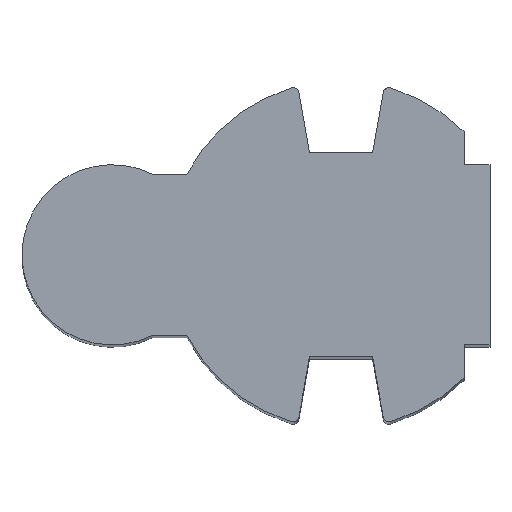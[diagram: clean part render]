
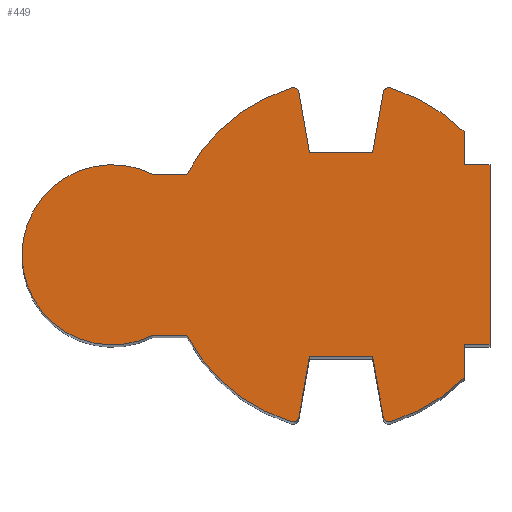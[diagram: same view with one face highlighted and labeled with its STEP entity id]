
A CAD part, top view. The second image highlights one B-rep face of the part: STEP entity #449.
In plain terms, the highlighted planar face has unit normal (0, 0, 1).
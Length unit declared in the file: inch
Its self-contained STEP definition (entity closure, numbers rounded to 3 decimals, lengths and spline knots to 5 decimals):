
#19=PLANE('',#492);
#36=FACE_OUTER_BOUND('',#60,.T.);
#60=EDGE_LOOP('',(#314,#315,#316,#317,#318,#319,#320,#321,#322,#323,#324,
#325,#326,#327,#328,#329,#330,#331,#332,#333,#334,#335));
#85=LINE('',#686,#133);
#86=LINE('',#688,#134);
#87=LINE('',#690,#135);
#88=LINE('',#696,#136);
#89=LINE('',#698,#137);
#90=LINE('',#700,#138);
#91=LINE('',#702,#139);
#92=LINE('',#704,#140);
#93=LINE('',#710,#141);
#94=LINE('',#712,#142);
#95=LINE('',#714,#143);
#96=LINE('',#720,#144);
#97=LINE('',#723,#145);
#133=VECTOR('',#550,0.3937);
#134=VECTOR('',#551,0.3937);
#135=VECTOR('',#552,0.3937);
#136=VECTOR('',#557,0.3937);
#137=VECTOR('',#558,0.3937);
#138=VECTOR('',#559,0.3937);
#139=VECTOR('',#560,0.3937);
#140=VECTOR('',#561,0.3937);
#141=VECTOR('',#566,0.3937);
#142=VECTOR('',#567,0.3937);
#143=VECTOR('',#568,0.3937);
#144=VECTOR('',#573,0.3937);
#145=VECTOR('',#576,0.3937);
#179=CIRCLE('',#488,0.025);
#180=CIRCLE('',#490,0.76);
#182=CIRCLE('',#493,0.025);
#183=CIRCLE('',#494,0.76);
#184=CIRCLE('',#495,0.76);
#185=CIRCLE('',#496,0.025);
#186=CIRCLE('',#497,0.025);
#187=CIRCLE('',#498,0.76);
#188=CIRCLE('',#499,0.3937);
#198=VERTEX_POINT('',#673);
#199=VERTEX_POINT('',#675);
#200=VERTEX_POINT('',#679);
#202=VERTEX_POINT('',#685);
#203=VERTEX_POINT('',#687);
#204=VERTEX_POINT('',#689);
#205=VERTEX_POINT('',#691);
#206=VERTEX_POINT('',#693);
#207=VERTEX_POINT('',#695);
#208=VERTEX_POINT('',#697);
#209=VERTEX_POINT('',#699);
#210=VERTEX_POINT('',#701);
#211=VERTEX_POINT('',#703);
#212=VERTEX_POINT('',#705);
#213=VERTEX_POINT('',#707);
#214=VERTEX_POINT('',#709);
#215=VERTEX_POINT('',#711);
#216=VERTEX_POINT('',#713);
#217=VERTEX_POINT('',#715);
#218=VERTEX_POINT('',#717);
#219=VERTEX_POINT('',#719);
#220=VERTEX_POINT('',#721);
#242=EDGE_CURVE('',#198,#199,#179,.T.);
#244=EDGE_CURVE('',#200,#199,#180,.T.);
#247=EDGE_CURVE('',#202,#198,#85,.T.);
#248=EDGE_CURVE('',#202,#203,#86,.T.);
#249=EDGE_CURVE('',#203,#204,#87,.T.);
#250=EDGE_CURVE('',#205,#204,#182,.T.);
#251=EDGE_CURVE('',#205,#206,#183,.T.);
#252=EDGE_CURVE('',#207,#206,#88,.T.);
#253=EDGE_CURVE('',#208,#207,#89,.T.);
#254=EDGE_CURVE('',#209,#208,#90,.T.);
#255=EDGE_CURVE('',#209,#210,#91,.T.);
#256=EDGE_CURVE('',#210,#211,#92,.T.);
#257=EDGE_CURVE('',#211,#212,#184,.T.);
#258=EDGE_CURVE('',#213,#212,#185,.T.);
#259=EDGE_CURVE('',#214,#213,#93,.T.);
#260=EDGE_CURVE('',#215,#214,#94,.T.);
#261=EDGE_CURVE('',#215,#216,#95,.T.);
#262=EDGE_CURVE('',#217,#216,#186,.T.);
#263=EDGE_CURVE('',#217,#218,#187,.T.);
#264=EDGE_CURVE('',#219,#218,#96,.T.);
#265=EDGE_CURVE('',#219,#220,#188,.T.);
#266=EDGE_CURVE('',#220,#200,#97,.T.);
#314=ORIENTED_EDGE('',*,*,#242,.F.);
#315=ORIENTED_EDGE('',*,*,#247,.F.);
#316=ORIENTED_EDGE('',*,*,#248,.T.);
#317=ORIENTED_EDGE('',*,*,#249,.T.);
#318=ORIENTED_EDGE('',*,*,#250,.F.);
#319=ORIENTED_EDGE('',*,*,#251,.T.);
#320=ORIENTED_EDGE('',*,*,#252,.F.);
#321=ORIENTED_EDGE('',*,*,#253,.F.);
#322=ORIENTED_EDGE('',*,*,#254,.F.);
#323=ORIENTED_EDGE('',*,*,#255,.T.);
#324=ORIENTED_EDGE('',*,*,#256,.T.);
#325=ORIENTED_EDGE('',*,*,#257,.T.);
#326=ORIENTED_EDGE('',*,*,#258,.F.);
#327=ORIENTED_EDGE('',*,*,#259,.F.);
#328=ORIENTED_EDGE('',*,*,#260,.F.);
#329=ORIENTED_EDGE('',*,*,#261,.T.);
#330=ORIENTED_EDGE('',*,*,#262,.F.);
#331=ORIENTED_EDGE('',*,*,#263,.T.);
#332=ORIENTED_EDGE('',*,*,#264,.F.);
#333=ORIENTED_EDGE('',*,*,#265,.T.);
#334=ORIENTED_EDGE('',*,*,#266,.T.);
#335=ORIENTED_EDGE('',*,*,#244,.T.);
#449=ADVANCED_FACE('',(#36),#19,.T.);
#488=AXIS2_PLACEMENT_3D('',#676,#538,#539);
#490=AXIS2_PLACEMENT_3D('',#680,#543,#544);
#492=AXIS2_PLACEMENT_3D('',#684,#548,#549);
#493=AXIS2_PLACEMENT_3D('',#692,#553,#554);
#494=AXIS2_PLACEMENT_3D('',#694,#555,#556);
#495=AXIS2_PLACEMENT_3D('',#706,#562,#563);
#496=AXIS2_PLACEMENT_3D('',#708,#564,#565);
#497=AXIS2_PLACEMENT_3D('',#716,#569,#570);
#498=AXIS2_PLACEMENT_3D('',#718,#571,#572);
#499=AXIS2_PLACEMENT_3D('',#722,#574,#575);
#538=DIRECTION('center_axis',(0.,0.,-1.));
#539=DIRECTION('ref_axis',(0.526,-0.85,0.));
#543=DIRECTION('center_axis',(0.,0.,1.));
#544=DIRECTION('ref_axis',(1.,0.,0.));
#548=DIRECTION('center_axis',(0.,0.,1.));
#549=DIRECTION('ref_axis',(1.,0.,0.));
#550=DIRECTION('',(-0.174,-0.985,0.));
#551=DIRECTION('',(1.,0.,0.));
#552=DIRECTION('',(0.174,-0.985,0.));
#553=DIRECTION('center_axis',(0.,0.,-1.));
#554=DIRECTION('ref_axis',(-0.526,-0.85,0.));
#555=DIRECTION('center_axis',(0.,0.,1.));
#556=DIRECTION('ref_axis',(1.,0.,0.));
#557=DIRECTION('',(0.,-1.,0.));
#558=DIRECTION('',(-1.,0.,0.));
#559=DIRECTION('',(0.,-1.,0.));
#560=DIRECTION('',(-1.,0.,0.));
#561=DIRECTION('',(0.,1.,0.));
#562=DIRECTION('center_axis',(0.,0.,1.));
#563=DIRECTION('ref_axis',(1.,0.,0.));
#564=DIRECTION('center_axis',(0.,0.,-1.));
#565=DIRECTION('ref_axis',(-0.526,0.85,0.));
#566=DIRECTION('',(0.174,0.985,0.));
#567=DIRECTION('',(1.,0.,0.));
#568=DIRECTION('',(-0.174,0.985,0.));
#569=DIRECTION('center_axis',(0.,0.,-1.));
#570=DIRECTION('ref_axis',(0.526,0.85,0.));
#571=DIRECTION('center_axis',(0.,0.,1.));
#572=DIRECTION('ref_axis',(1.,0.,0.));
#573=DIRECTION('',(1.,0.,0.));
#574=DIRECTION('center_axis',(0.,0.,1.));
#575=DIRECTION('ref_axis',(1.,0.,0.));
#576=DIRECTION('',(1.,0.,0.));
#673=CARTESIAN_POINT('',(0.18962,-2.676,0.));
#675=CARTESIAN_POINT('',(0.15789,-2.69563,0.));
#676=CARTESIAN_POINT('Origin',(0.165,-2.67166,0.));
#679=CARTESIAN_POINT('',(-0.29962,-2.31896,0.));
#680=CARTESIAN_POINT('Origin',(0.37397,-1.967,0.));
#684=CARTESIAN_POINT('Origin',(0.00237,-1.967,0.));
#685=CARTESIAN_POINT('',(0.23617,-2.412,0.));
#686=CARTESIAN_POINT('',(0.23617,-2.412,0.));
#687=CARTESIAN_POINT('',(0.51176,-2.412,0.));
#688=CARTESIAN_POINT('',(0.23617,-2.412,0.));
#689=CARTESIAN_POINT('',(0.55832,-2.676,0.));
#690=CARTESIAN_POINT('',(0.51176,-2.412,0.));
#691=CARTESIAN_POINT('',(0.59004,-2.69563,0.));
#692=CARTESIAN_POINT('Origin',(0.58294,-2.67166,0.));
#693=CARTESIAN_POINT('',(0.91112,-2.50465,0.));
#694=CARTESIAN_POINT('Origin',(0.37397,-1.967,0.));
#695=CARTESIAN_POINT('',(0.91112,-2.36,0.));
#696=CARTESIAN_POINT('',(0.91112,-2.36,0.));
#697=CARTESIAN_POINT('',(1.02447,-2.36,0.));
#698=CARTESIAN_POINT('',(1.02447,-2.36,0.));
#699=CARTESIAN_POINT('',(1.02447,-1.574,0.));
#700=CARTESIAN_POINT('',(1.02447,-1.574,0.));
#701=CARTESIAN_POINT('',(0.91112,-1.574,0.));
#702=CARTESIAN_POINT('',(1.02447,-1.574,0.));
#703=CARTESIAN_POINT('',(0.91112,-1.42934,0.));
#704=CARTESIAN_POINT('',(0.91112,-1.574,0.));
#705=CARTESIAN_POINT('',(0.59004,-1.23836,0.));
#706=CARTESIAN_POINT('Origin',(0.37397,-1.967,0.));
#707=CARTESIAN_POINT('',(0.55832,-1.25799,0.));
#708=CARTESIAN_POINT('Origin',(0.58294,-1.26233,0.));
#709=CARTESIAN_POINT('',(0.51176,-1.522,0.));
#710=CARTESIAN_POINT('',(0.51176,-1.522,0.));
#711=CARTESIAN_POINT('',(0.23617,-1.522,0.));
#712=CARTESIAN_POINT('',(0.23617,-1.522,0.));
#713=CARTESIAN_POINT('',(0.18962,-1.25799,0.));
#714=CARTESIAN_POINT('',(0.23617,-1.522,0.));
#715=CARTESIAN_POINT('',(0.15789,-1.23836,0.));
#716=CARTESIAN_POINT('Origin',(0.165,-1.26233,0.));
#717=CARTESIAN_POINT('',(-0.29962,-1.61503,0.));
#718=CARTESIAN_POINT('Origin',(0.37397,-1.967,0.));
#719=CARTESIAN_POINT('',(-0.44962,-1.61503,0.));
#720=CARTESIAN_POINT('',(-0.44962,-1.61503,0.));
#721=CARTESIAN_POINT('',(-0.44962,-2.31896,0.));
#722=CARTESIAN_POINT('Origin',(-0.62603,-1.967,0.));
#723=CARTESIAN_POINT('',(-0.44962,-2.31896,0.));
